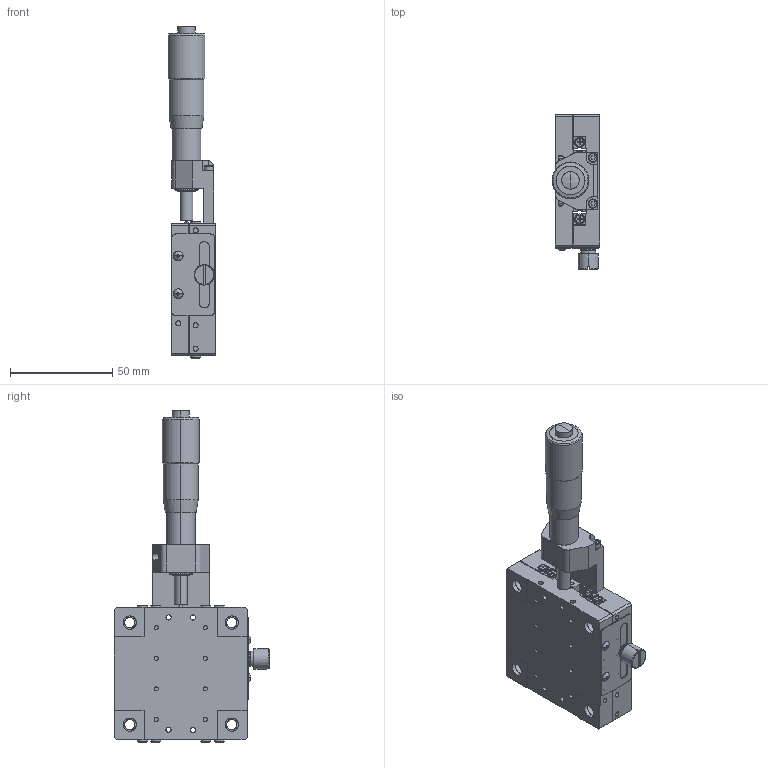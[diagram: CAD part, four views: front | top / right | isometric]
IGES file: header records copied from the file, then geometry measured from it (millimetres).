
Start section: SolidWorks IGES file using analytic representation for surfaces
Global section: file name: E:\0产品2d3d图纸-20180629\0-3种格式文件\产品图纸3d\07PHL\65\PHL-651CRZ-M6.IGS; native system: SolidWorks 2015; preprocessor: SolidWorks 2015; author: Administrator; date: 180724.092459; units: millimetre
Bounding box: 23.5 x 76 x 162.64 mm (x, y, z)
Surface area: 57471.2 mm2 (no closed solid volume)
Topology: 0 solids, 0 shells, 1194 faces, 21384 edges, 21365 vertices
Faces by surface type: bspline 615, revolution 579
